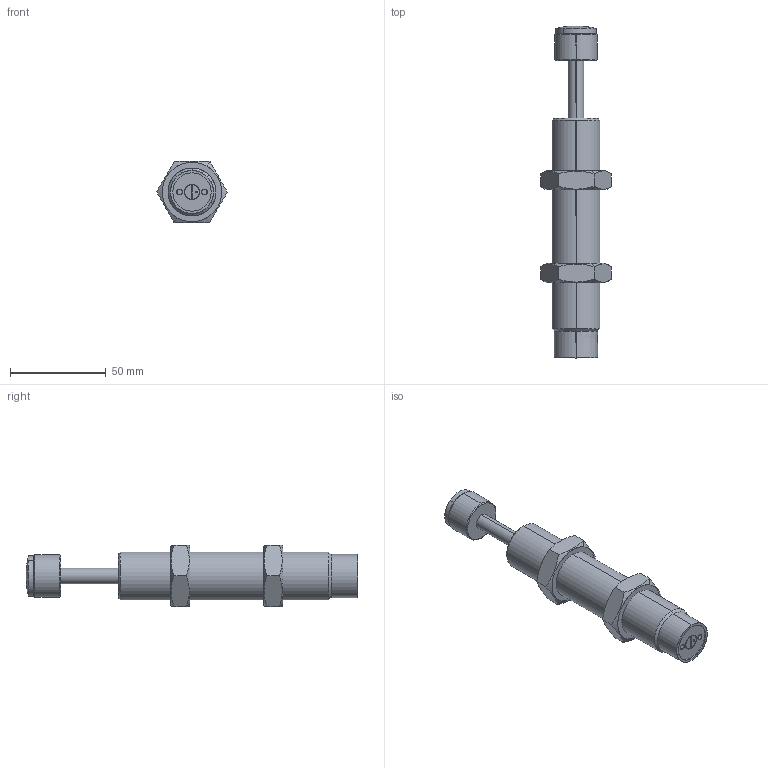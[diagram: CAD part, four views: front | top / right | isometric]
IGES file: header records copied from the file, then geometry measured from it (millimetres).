
Start section: SolidWorks IGES file using analytic representation for surfaces
Bounding box: 36.95 x 173.04 x 32.2 mm (x, y, z)
Surface area: 18698.8 mm2 (no closed solid volume)
Topology: 0 solids, 0 shells, 89 faces, 1892 edges, 1889 vertices
Faces by surface type: revolution 52, bspline 37
